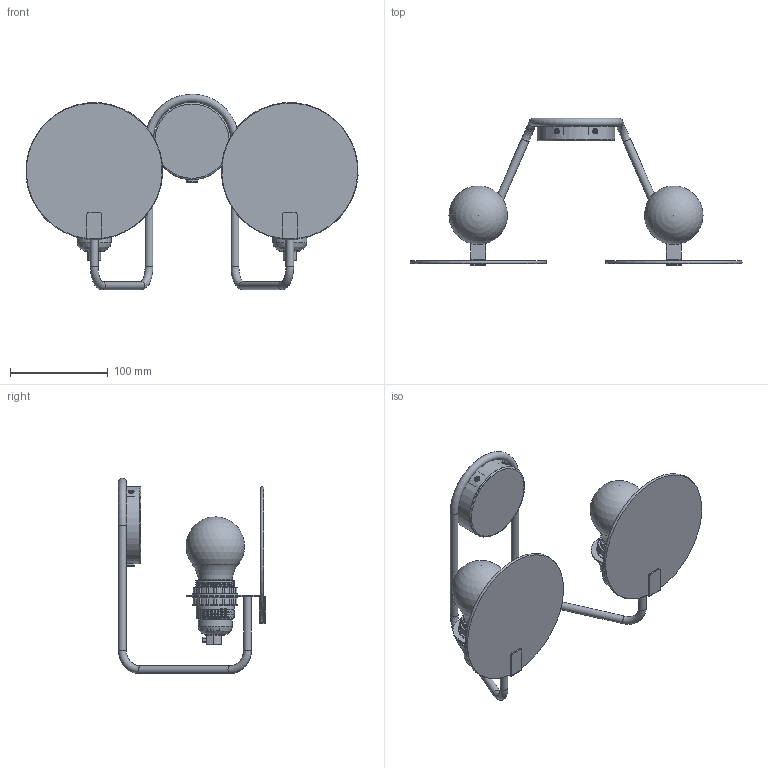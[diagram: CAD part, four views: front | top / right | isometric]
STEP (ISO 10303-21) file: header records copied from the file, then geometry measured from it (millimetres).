
FILE_DESCRIPTION(/* description */ ('Unknown'),/* implementation_level */ '2;1');
FILE_NAME(/* name */ '9692',/* time_stamp */ '2022-07-05T10:02:38+02:00',/* author */ ('Unknown'),/* organization */ ('Unknown'),/* preprocessor_version */ 'ST-DEVELOPER v18.1',/* originating_system */ 'Solid Edge',/* authorisation */ 'Unknown');
FILE_SCHEMA (('AUTOMOTIVE_DESIGN {1 0 10303 214 3 1 1}'));
Length unit declared in the file: millimetre
Products named in the file (19): 9692-9693-9694-9695-9696; 151001813710; 153000346701; 131000196966_1; 151001768142; 152000407999_1; 005000015000; 005000014000; 005000017000; 060000319352; O1729-9; O1729-9 (02); 011000150000; 101000224522; 220000018000; 063000281356; o2147-1_oa_0; H1233-5; 060000367352
Assembly tree (31 placements, depth 3):
  9692-9693-9694-9695-9696
    151001813710
    153000346701
      131000196966_1
      151001768142  x2
      152000407999_1
    005000015000  x4
    005000014000  x2
    005000017000  x2
    060000319352  x2
      O1729-9
      O1729-9 (02)
    011000150000  x2
    101000224522  x2
    220000018000  x2
    063000281356  x4
    o2147-1_oa_0
    H1233-5
    060000367352
Bounding box: 339.66 x 150.5 x 199.95 mm (x, y, z)
Volume: 493270.9 mm3; surface area: 220789.7 mm2
Topology: 29 solids, 29 shells, 901 faces, 2272 edges, 1443 vertices
Faces by surface type: plane 388, cylinder 370, torus 53, bspline 52, sphere 20, cone 18
Full cylindrical faces by diameter (mm): 1.567 x4, 3 x2, 3.242 x2, 3.5 x4, 4 x1, 4.5 x2, 4.917 x2, 6 x2, 6.5 x1, 7 x3, 8 x6, 10 x3, 10.5 x2, 11 x2, 12 x1, 13 x2, 17 x2, 20 x2, 24.5 x2, 30.5 x2, 35 x2, 35.5 x10, 37 x12, 38 x2, 39 x2, 40 x1, 42 x2, 46 x2, 46.5 x4, 77 x1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
Entity records: 20832 total; most frequent: CARTESIAN_POINT 7068, DIRECTION 2290, ORIENTED_EDGE 2096, EDGE_CURVE 1048, AXIS2_PLACEMENT_3D 883, VERTEX_POINT 699, EDGE_LOOP 599, FACE_BOUND 599
